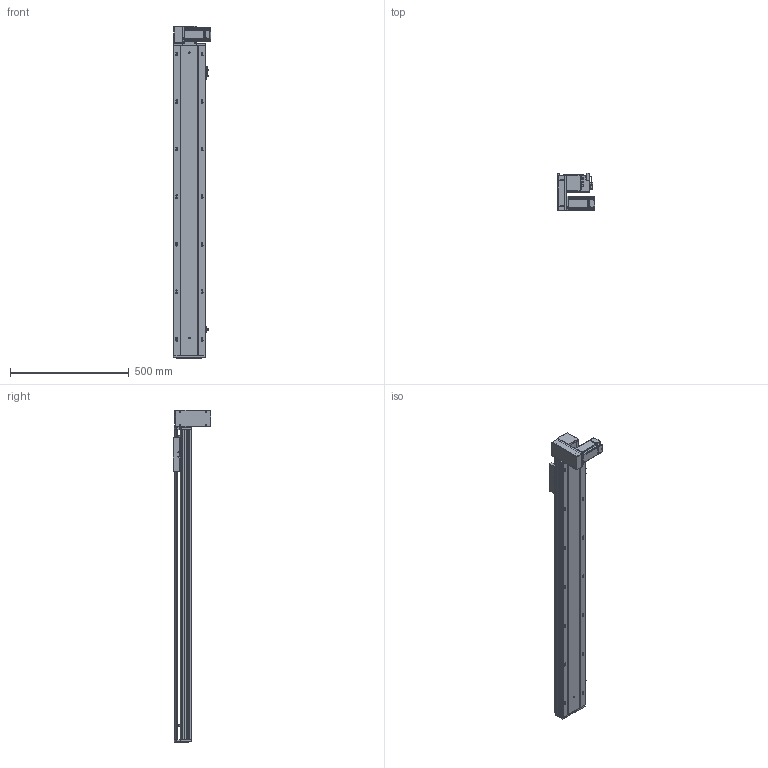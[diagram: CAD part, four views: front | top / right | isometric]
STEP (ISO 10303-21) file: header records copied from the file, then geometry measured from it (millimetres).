
FILE_DESCRIPTION (( 'STEP AP203' ), '1' );
FILE_NAME ('RY140-T-300-DL.SLDASM_1050.step', '2021-03-01T06:06:29', ( '盈信电脑' ), ( '东莞市道滘镇水果街19号' ), 'SwSTEP 2.0', 'SolidWorks 2012', '' );
FILE_SCHEMA (( 'CONFIG_CONTROL_DESIGN' ));
Products named in the file (18): RY140-T翋肮謫裔啣; RY140-T-300-DL.SLDASM_1050; 滅袉蝶18-10; RY140-T萇儂欶; RY120-T蹟翐M4; RY120-T主同步轮轴承压盖; 15; RY140-T翋肮祭謫盓傅釱; RY140-T萇儂假蚾啣; 侂狟400W侜督萇儂; RY120-T肮祭湍揤踡輸2; RY120外置感应片(140共用）; 覜茼ん672; RY120-T肮祭湍揤踡輸1; RY140綴裔啣; RY140肮祭謫臏賑輸; RY140-T-300-DL倰第菁釱_1050; RY140-T-300-DL倰第奻裔啣_1050
Assembly tree (23 placements, depth 3):
  RY140-T-300-DL.SLDASM_1050
    RY140-T-300-DL倰第菁釱_1050
    RY140肮祭謫臏賑輸
    RY140-T-300-DL倰第奻裔啣_1050
    RY140綴裔啣
    覜茼ん672  x3
    RY120外置感应片(140共用）
    RY120-T肮祭湍揤踡輸2
    RY120-T肮祭湍揤踡輸1
    RY140-T翋肮祭謫盓傅釱
    RY140-T萇儂假蚾啣
    侂狟400W侜督萇儂
      15
    RY120-T主同步轮轴承压盖
    RY120-T蹟翐M4  x4
    RY140-T萇儂欶
    滅袉蝶18-10  x2
    RY140-T翋肮謫裔啣
Bounding box: 157 x 158.5 x 1396 mm (x, y, z)
Volume: 4117029.8 mm3; surface area: 1573333.9 mm2
Topology: 22 solids, 22 shells, 2682 faces, 7330 edges, 4700 vertices
Faces by surface type: plane 1385, cylinder 975, cone 222, bspline 100
Entity records: 84660 total; most frequent: CARTESIAN_POINT 20583, ORIENTED_EDGE 13140, DIRECTION 12528, EDGE_CURVE 6570, VERTEX_POINT 4299, VECTOR 4214, LINE 4214, AXIS2_PLACEMENT_3D 4157
